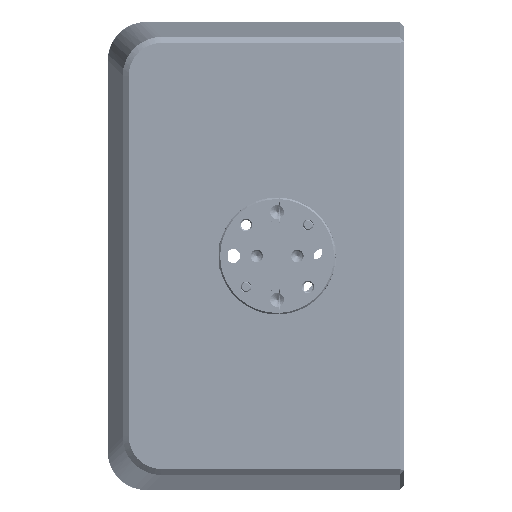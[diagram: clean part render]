
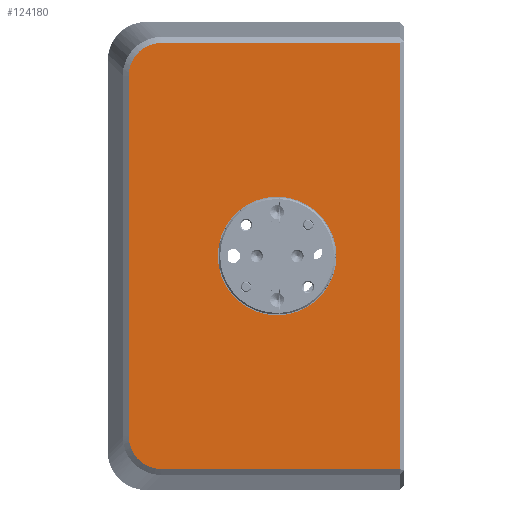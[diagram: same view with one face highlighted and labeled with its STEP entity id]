
A CAD part, left-side view. The second image highlights one B-rep face of the part: STEP entity #124180.
In plain terms, the highlighted planar face has unit normal (-1, 0, 0).
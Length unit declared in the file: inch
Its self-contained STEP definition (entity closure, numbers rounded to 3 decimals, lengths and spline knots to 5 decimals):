
#1348 = CARTESIAN_POINT ( 'NONE',  ( -4.25, -6.8667, -1.36508 ) ) ;
#3152 = CARTESIAN_POINT ( 'NONE',  ( -4.25, -8.39286, -1.36508 ) ) ;
#3239 = EDGE_CURVE ( 'NONE', #259195, #14165, #33073, .T. ) ;
#6407 = CARTESIAN_POINT ( 'NONE',  ( -4.25, -6.76124, -1.33884 ) ) ;
#13467 = ORIENTED_EDGE ( 'NONE', *, *, #320316, .T. ) ;
#14165 = VERTEX_POINT ( 'NONE', #323105 ) ;
#20040 = CARTESIAN_POINT ( 'NONE',  ( -4.25, -6.8667, 1.36508 ) ) ;
#24774 = DIRECTION ( 'NONE',  ( 0., 0., -1. ) ) ;
#33073 = CIRCLE ( 'NONE', #114909, 0.38 ) ;
#35444 = CARTESIAN_POINT ( 'NONE',  ( -4.25, -8.39286, 0. ) ) ;
#42816 = CARTESIAN_POINT ( 'NONE',  ( -4.25, -6.8667, 1.36508 ) ) ;
#44547 = CIRCLE ( 'NONE', #112946, 0.38 ) ;
#45895 = CARTESIAN_POINT ( 'NONE',  ( -4.25, -6.65778, 1.15616 ) ) ;
#62622 = ORIENTED_EDGE ( 'NONE', *, *, #99836, .T. ) ;
#68712 = CARTESIAN_POINT ( 'NONE',  ( -4.25, -6.68401, -1.26162 ) ) ;
#80094 = CARTESIAN_POINT ( 'NONE',  ( -4.25, -6.81171, 1.35964 ) ) ;
#83183 = VECTOR ( 'NONE', #110262, 39.37008 ) ;
#86110 = VECTOR ( 'NONE', #274552, 39.37008 ) ;
#90481 = CARTESIAN_POINT ( 'NONE',  ( -4.25, -7.60786, 0. ) ) ;
#93203 = FACE_OUTER_BOUND ( 'NONE', #225312, .T. ) ;
#99452 = EDGE_LOOP ( 'NONE', ( #356171, #126389 ) ) ;
#99836 = EDGE_CURVE ( 'NONE', #329564, #401279, #399366, .T. ) ;
#102857 = CARTESIAN_POINT ( 'NONE',  ( -4.25, -6.65778, -1.15616 ) ) ;
#104944 = CARTESIAN_POINT ( 'NONE',  ( -4.25, -6.8667, -1.36508 ) ) ;
#107981 = CARTESIAN_POINT ( 'NONE',  ( -4.25, -7.60786, -0.38 ) ) ;
#110262 = DIRECTION ( 'NONE',  ( 0., 0., -1. ) ) ;
#112171 = VERTEX_POINT ( 'NONE', #3152 ) ;
#112946 = AXIS2_PLACEMENT_3D ( 'NONE', #90481, #351740, #285298 ) ;
#114909 = AXIS2_PLACEMENT_3D ( 'NONE', #161379, #127128, #163489 ) ;
#122391 = VECTOR ( 'NONE', #366426, 39.37008 ) ;
#124180 = ADVANCED_FACE ( 'NONE', ( #256071, #93203 ), #418594, .F. ) ;
#126389 = ORIENTED_EDGE ( 'NONE', *, *, #3239, .F. ) ;
#127128 = DIRECTION ( 'NONE',  ( -1., 0., 0. ) ) ;
#137042 = CARTESIAN_POINT ( 'NONE',  ( -4.25, -6.81171, -1.35965 ) ) ;
#148544 = CARTESIAN_POINT ( 'NONE',  ( -4.25, -6.738, 1.32336 ) ) ;
#150641 = CARTESIAN_POINT ( 'NONE',  ( -4.25, -6.68401, 1.26162 ) ) ;
#155796 = EDGE_CURVE ( 'NONE', #401279, #216365, #283684, .T. ) ;
#161379 = CARTESIAN_POINT ( 'NONE',  ( -4.25, -7.60786, 0. ) ) ;
#163489 = DIRECTION ( 'NONE',  ( 0., 0., 1. ) ) ;
#169247 = CARTESIAN_POINT ( 'NONE',  ( -4.25, -6.738, -1.32336 ) ) ;
#175666 = ORIENTED_EDGE ( 'NONE', *, *, #382258, .T. ) ;
#175741 = CARTESIAN_POINT ( 'NONE',  ( -4.25, -8.39286, 1.36508 ) ) ;
#178514 = CARTESIAN_POINT ( 'NONE',  ( -4.25, -6.6995, 1.28486 ) ) ;
#181187 = ORIENTED_EDGE ( 'NONE', *, *, #327095, .T. ) ;
#186803 = LINE ( 'NONE', #216945, #254939 ) ;
#199275 = CARTESIAN_POINT ( 'NONE',  ( -4.25, -6.6995, -1.28485 ) ) ;
#202342 = LINE ( 'NONE', #35444, #86110 ) ;
#205567 = B_SPLINE_CURVE_WITH_KNOTS ( 'NONE', 3,
 ( #20040, #339226, #80094, #210739, #148544, #178514, #150641, #238614, #242876, #45895 ),
 .UNSPECIFIED., .F., .F.,
 ( 4, 2, 2, 2, 4 ),
 ( 0., 0.25, 0.5, 0.75, 1. ),
 .UNSPECIFIED. ) ;
#210739 = CARTESIAN_POINT ( 'NONE',  ( -4.25, -6.76124, 1.33885 ) ) ;
#214859 = DIRECTION ( 'NONE',  ( 0., 1., 0. ) ) ;
#216365 = VERTEX_POINT ( 'NONE', #1348 ) ;
#216946 = VERTEX_POINT ( 'NONE', #175741 ) ;
#216945 = CARTESIAN_POINT ( 'NONE',  ( -4.25, -7.47286, 1.36508 ) ) ;
#225312 = EDGE_LOOP ( 'NONE', ( #293412, #175666, #13467, #284337, #181187, #62622 ) ) ;
#234935 = VERTEX_POINT ( 'NONE', #42816 ) ;
#236707 = CARTESIAN_POINT ( 'NONE',  ( -4.25, -6.65778, 0. ) ) ;
#238614 = CARTESIAN_POINT ( 'NONE',  ( -4.25, -6.66321, 1.21115 ) ) ;
#242876 = CARTESIAN_POINT ( 'NONE',  ( -4.25, -6.65778, 1.1837 ) ) ;
#254939 = VECTOR ( 'NONE', #214859, 39.37008 ) ;
#256071 = FACE_BOUND ( 'NONE', #99452, .T. ) ;
#259195 = VERTEX_POINT ( 'NONE', #107981 ) ;
#274552 = DIRECTION ( 'NONE',  ( 0., 0., 1. ) ) ;
#281739 = CARTESIAN_POINT ( 'NONE',  ( -4.25, -7.47286, 0. ) ) ;
#283684 = B_SPLINE_CURVE_WITH_KNOTS ( 'NONE', 3,
 ( #102857, #332084, #325819, #68712, #199275, #169247, #6407, #137042, #398277, #104944 ),
 .UNSPECIFIED., .F., .F.,
 ( 4, 2, 2, 2, 4 ),
 ( 0., 0.25, 0.5, 0.75, 1. ),
 .UNSPECIFIED. ) ;
#284337 = ORIENTED_EDGE ( 'NONE', *, *, #312270, .T. ) ;
#285298 = DIRECTION ( 'NONE',  ( 0., 0., 1. ) ) ;
#293412 = ORIENTED_EDGE ( 'NONE', *, *, #155796, .T. ) ;
#312270 = EDGE_CURVE ( 'NONE', #216946, #234935, #186803, .T. ) ;
#320316 = EDGE_CURVE ( 'NONE', #112171, #216946, #202342, .T. ) ;
#323105 = CARTESIAN_POINT ( 'NONE',  ( -4.25, -7.60786, 0.38 ) ) ;
#325819 = CARTESIAN_POINT ( 'NONE',  ( -4.25, -6.66321, -1.21114 ) ) ;
#327095 = EDGE_CURVE ( 'NONE', #234935, #329564, #205567, .T. ) ;
#329564 = VERTEX_POINT ( 'NONE', #397835 ) ;
#332084 = CARTESIAN_POINT ( 'NONE',  ( -4.25, -6.65778, -1.18364 ) ) ;
#332314 = LINE ( 'NONE', #398495, #122391 ) ;
#339226 = CARTESIAN_POINT ( 'NONE',  ( -4.25, -6.83921, 1.36508 ) ) ;
#351740 = DIRECTION ( 'NONE',  ( -1., 0., 0. ) ) ;
#356171 = ORIENTED_EDGE ( 'NONE', *, *, #364727, .F. ) ;
#364727 = EDGE_CURVE ( 'NONE', #14165, #259195, #44547, .T. ) ;
#366426 = DIRECTION ( 'NONE',  ( 0., -1., 0. ) ) ;
#372298 = DIRECTION ( 'NONE',  ( 1., 0., 0. ) ) ;
#382258 = EDGE_CURVE ( 'NONE', #216365, #112171, #332314, .T. ) ;
#395506 = AXIS2_PLACEMENT_3D ( 'NONE', #281739, #372298, #24774 ) ;
#397835 = CARTESIAN_POINT ( 'NONE',  ( -4.25, -6.65778, 1.15616 ) ) ;
#398277 = CARTESIAN_POINT ( 'NONE',  ( -4.25, -6.83915, -1.36508 ) ) ;
#398495 = CARTESIAN_POINT ( 'NONE',  ( -4.25, -7.47286, -1.36508 ) ) ;
#399366 = LINE ( 'NONE', #236707, #83183 ) ;
#401279 = VERTEX_POINT ( 'NONE', #403390 ) ;
#403390 = CARTESIAN_POINT ( 'NONE',  ( -4.25, -6.65778, -1.15616 ) ) ;
#418594 = PLANE ( 'NONE',  #395506 ) ;
